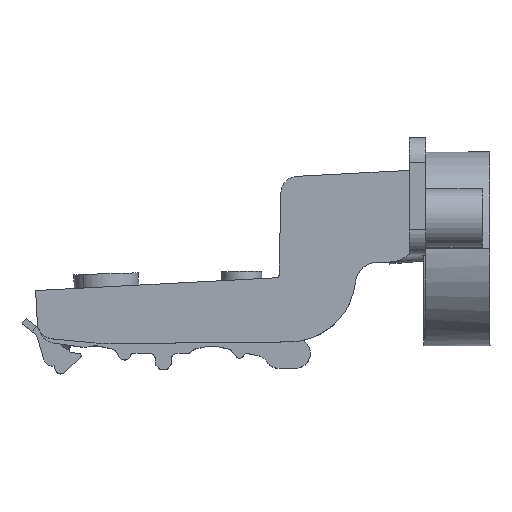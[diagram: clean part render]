
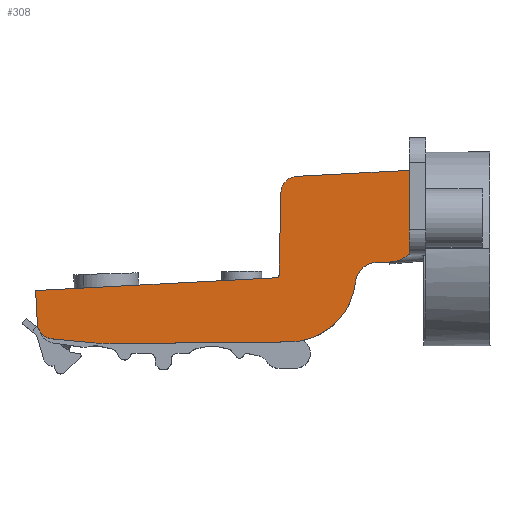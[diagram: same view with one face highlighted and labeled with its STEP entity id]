
A CAD part, top view. The second image highlights one B-rep face of the part: STEP entity #308.
In plain terms, the highlighted planar face has unit normal (0, 0, 1).
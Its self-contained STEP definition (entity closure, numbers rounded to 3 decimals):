
#33 = VERTEX_POINT ( 'NONE', #5550 ) ;
#138 = EDGE_LOOP ( 'NONE', ( #3999, #5428, #5588, #2591, #860, #1868, #2496, #207, #2877, #1821, #2102, #1815, #5817, #746, #674, #2652 ) ) ;
#175 = CARTESIAN_POINT ( 'NONE',  ( -18.123, 0.045, 8.5 ) ) ;
#207 = ORIENTED_EDGE ( 'NONE', *, *, #777, .F. ) ;
#216 = LINE ( 'NONE', #2930, #2545 ) ;
#233 = EDGE_CURVE ( 'NONE', #1184, #2069, #3265, .T. ) ;
#255 = CARTESIAN_POINT ( 'NONE',  ( -0.47, 2.366, 8.5 ) ) ;
#264 = VECTOR ( 'NONE', #3915, 1000. ) ;
#298 = EDGE_CURVE ( 'NONE', #33, #5667, #1113, .T. ) ;
#302 = DIRECTION ( 'NONE',  ( 1., 0.01, 0. ) ) ;
#308 = ADVANCED_FACE ( 'NONE', ( #1145 ), #3458, .T. ) ;
#345 = EDGE_CURVE ( 'NONE', #4266, #4323, #216, .T. ) ;
#380 = EDGE_CURVE ( 'NONE', #5667, #5527, #1592, .T. ) ;
#387 = DIRECTION ( 'NONE',  ( 0., 0., -1. ) ) ;
#427 = AXIS2_PLACEMENT_3D ( 'NONE', #3492, #3021, #3668 ) ;
#521 = EDGE_CURVE ( 'NONE', #5527, #1184, #2299, .T. ) ;
#522 = CARTESIAN_POINT ( 'NONE',  ( -51.365, -12.125, 8.5 ) ) ;
#674 = ORIENTED_EDGE ( 'NONE', *, *, #4054, .F. ) ;
#713 = DIRECTION ( 'NONE',  ( -0.053, 0.999, 0. ) ) ;
#746 = ORIENTED_EDGE ( 'NONE', *, *, #1694, .T. ) ;
#777 = EDGE_CURVE ( 'NONE', #2815, #1726, #5230, .T. ) ;
#845 = VECTOR ( 'NONE', #4090, 1000. ) ;
#860 = ORIENTED_EDGE ( 'NONE', *, *, #233, .T. ) ;
#862 = CARTESIAN_POINT ( 'NONE',  ( -16.343, 0.045, 8.5 ) ) ;
#938 = CARTESIAN_POINT ( 'NONE',  ( 5.231, 3.937, 8.5 ) ) ;
#947 = DIRECTION ( 'NONE',  ( 1., 0.01, 0. ) ) ;
#1055 = DIRECTION ( 'NONE',  ( 1., 0., 0. ) ) ;
#1096 = VERTEX_POINT ( 'NONE', #4233 ) ;
#1113 = LINE ( 'NONE', #4605, #4445 ) ;
#1145 = FACE_OUTER_BOUND ( 'NONE', #138, .T. ) ;
#1184 = VERTEX_POINT ( 'NONE', #175 ) ;
#1233 = CARTESIAN_POINT ( 'NONE',  ( -4.409, -1.214, 8.5 ) ) ;
#1286 = EDGE_CURVE ( 'NONE', #3599, #1726, #3985, .T. ) ;
#1288 = LINE ( 'NONE', #5332, #4659 ) ;
#1592 = CIRCLE ( 'NONE', #5889, 3. ) ;
#1618 = CARTESIAN_POINT ( 'NONE',  ( -58.515, -8.429, 8.5 ) ) ;
#1694 = EDGE_CURVE ( 'NONE', #5521, #4342, #5868, .T. ) ;
#1726 = VERTEX_POINT ( 'NONE', #2152 ) ;
#1815 = ORIENTED_EDGE ( 'NONE', *, *, #345, .F. ) ;
#1821 = ORIENTED_EDGE ( 'NONE', *, *, #4176, .F. ) ;
#1868 = ORIENTED_EDGE ( 'NONE', *, *, #4815, .T. ) ;
#1876 = EDGE_CURVE ( 'NONE', #4323, #2565, #2420, .T. ) ;
#1978 = EDGE_CURVE ( 'NONE', #5521, #4266, #3669, .T. ) ;
#2032 = DIRECTION ( 'NONE',  ( 0., 0., -1. ) ) ;
#2065 = VECTOR ( 'NONE', #2180, 1000. ) ;
#2069 = VERTEX_POINT ( 'NONE', #3571 ) ;
#2102 = ORIENTED_EDGE ( 'NONE', *, *, #1876, .F. ) ;
#2117 = LINE ( 'NONE', #2147, #264 ) ;
#2118 = DIRECTION ( 'NONE',  ( 0., 0., -1. ) ) ;
#2136 = CARTESIAN_POINT ( 'NONE',  ( -48.513, 17.739, 8.5 ) ) ;
#2147 = CARTESIAN_POINT ( 'NONE',  ( 12.935, 2.494, 8.5 ) ) ;
#2152 = CARTESIAN_POINT ( 'NONE',  ( -61.815, -2.742, 8.5 ) ) ;
#2153 = VECTOR ( 'NONE', #5148, 1000. ) ;
#2180 = DIRECTION ( 'NONE',  ( -0.023, -1., 0. ) ) ;
#2253 = AXIS2_PLACEMENT_3D ( 'NONE', #4308, #2508, #302 ) ;
#2299 = LINE ( 'NONE', #3105, #2065 ) ;
#2420 = CIRCLE ( 'NONE', #5779, 30. ) ;
#2480 = AXIS2_PLACEMENT_3D ( 'NONE', #5546, #5598, #4159 ) ;
#2496 = ORIENTED_EDGE ( 'NONE', *, *, #1286, .T. ) ;
#2508 = DIRECTION ( 'NONE',  ( 0., 0., 1. ) ) ;
#2545 = VECTOR ( 'NONE', #4333, 1000. ) ;
#2565 = VERTEX_POINT ( 'NONE', #522 ) ;
#2567 = CARTESIAN_POINT ( 'NONE',  ( -61.82, -2.663, 8.5 ) ) ;
#2569 = CIRCLE ( 'NONE', #3323, 0.5 ) ;
#2576 = DIRECTION ( 'NONE',  ( 0., 0., 1. ) ) ;
#2591 = ORIENTED_EDGE ( 'NONE', *, *, #521, .T. ) ;
#2652 = ORIENTED_EDGE ( 'NONE', *, *, #5414, .F. ) ;
#2715 = LINE ( 'NONE', #3726, #845 ) ;
#2815 = VERTEX_POINT ( 'NONE', #4512 ) ;
#2877 = ORIENTED_EDGE ( 'NONE', *, *, #5595, .F. ) ;
#2902 = AXIS2_PLACEMENT_3D ( 'NONE', #862, #387, #947 ) ;
#2930 = CARTESIAN_POINT ( 'NONE',  ( -16.229, -11.955, 8.5 ) ) ;
#2987 = CARTESIAN_POINT ( 'NONE',  ( -17.783, 14.833, 8.5 ) ) ;
#3021 = DIRECTION ( 'NONE',  ( 0., 0., -1. ) ) ;
#3075 = DIRECTION ( 'NONE',  ( 0.001, -1., 0. ) ) ;
#3105 = CARTESIAN_POINT ( 'NONE',  ( -17.783, 14.833, 8.5 ) ) ;
#3118 = CARTESIAN_POINT ( 'NONE',  ( -21.854, -0.616, 8.5 ) ) ;
#3227 = CARTESIAN_POINT ( 'NONE',  ( -16.229, -11.955, 8.5 ) ) ;
#3243 = AXIS2_PLACEMENT_3D ( 'NONE', #1618, #2118, #4365 ) ;
#3260 = CARTESIAN_POINT ( 'NONE',  ( 1.876, 2.388, 8.5 ) ) ;
#3265 = LINE ( 'NONE', #3316, #2153 ) ;
#3306 = CARTESIAN_POINT ( 'NONE',  ( -48.227, -12.26, 8.5 ) ) ;
#3316 = CARTESIAN_POINT ( 'NONE',  ( -18.123, 0.045, 8.5 ) ) ;
#3323 = AXIS2_PLACEMENT_3D ( 'NONE', #5632, #2032, #1055 ) ;
#3458 = PLANE ( 'NONE',  #2253 ) ;
#3489 = CARTESIAN_POINT ( 'NONE',  ( -14.783, 14.764, 8.5 ) ) ;
#3492 = CARTESIAN_POINT ( 'NONE',  ( -0.431, -1.634, 8.5 ) ) ;
#3571 = CARTESIAN_POINT ( 'NONE',  ( -18.123, 0.044, 8.5 ) ) ;
#3599 = VERTEX_POINT ( 'NONE', #4779 ) ;
#3668 = DIRECTION ( 'NONE',  ( -1., -0.01, 0. ) ) ;
#3669 = CIRCLE ( 'NONE', #2902, 12. ) ;
#3726 = CARTESIAN_POINT ( 'NONE',  ( -51.365, -12.125, 8.5 ) ) ;
#3915 = DIRECTION ( 'NONE',  ( -1., -0.01, 0. ) ) ;
#3965 = DIRECTION ( 'NONE',  ( 1., 0.01, 0. ) ) ;
#3985 = LINE ( 'NONE', #3118, #5768 ) ;
#3999 = ORIENTED_EDGE ( 'NONE', *, *, #4103, .F. ) ;
#4054 = EDGE_CURVE ( 'NONE', #5203, #4342, #2117, .T. ) ;
#4073 = DIRECTION ( 'NONE',  ( -0.999, -0.053, 0. ) ) ;
#4090 = DIRECTION ( 'NONE',  ( -0.995, 0.095, 0. ) ) ;
#4103 = EDGE_CURVE ( 'NONE', #33, #4734, #1288, .T. ) ;
#4159 = DIRECTION ( 'NONE',  ( 1., 0.01, 0. ) ) ;
#4176 = EDGE_CURVE ( 'NONE', #2565, #1096, #2715, .T. ) ;
#4233 = CARTESIAN_POINT ( 'NONE',  ( -58.8, -11.415, 8.5 ) ) ;
#4266 = VERTEX_POINT ( 'NONE', #3227 ) ;
#4308 = CARTESIAN_POINT ( 'NONE',  ( 13.877, -2.021, 8.5 ) ) ;
#4323 = VERTEX_POINT ( 'NONE', #3306 ) ;
#4333 = DIRECTION ( 'NONE',  ( -1., -0.01, 0. ) ) ;
#4342 = VERTEX_POINT ( 'NONE', #255 ) ;
#4365 = DIRECTION ( 'NONE',  ( 1., 0.01, 0. ) ) ;
#4445 = VECTOR ( 'NONE', #4664, 1000. ) ;
#4512 = CARTESIAN_POINT ( 'NONE',  ( -61.494, -8.784, 8.5 ) ) ;
#4605 = CARTESIAN_POINT ( 'NONE',  ( -0.462, 18.53, 8.5 ) ) ;
#4659 = VECTOR ( 'NONE', #3075, 1000. ) ;
#4664 = DIRECTION ( 'NONE',  ( -0.999, -0.053, 0. ) ) ;
#4734 = VERTEX_POINT ( 'NONE', #938 ) ;
#4779 = CARTESIAN_POINT ( 'NONE',  ( -18.596, -0.443, 8.5 ) ) ;
#4815 = EDGE_CURVE ( 'NONE', #2069, #3599, #2569, .T. ) ;
#4952 = CIRCLE ( 'NONE', #3243, 3. ) ;
#5148 = DIRECTION ( 'NONE',  ( -0.024, -1., 0. ) ) ;
#5203 = VERTEX_POINT ( 'NONE', #3260 ) ;
#5225 = DIRECTION ( 'NONE',  ( 0., 0., -1. ) ) ;
#5230 = LINE ( 'NONE', #2567, #5515 ) ;
#5332 = CARTESIAN_POINT ( 'NONE',  ( 5.234, -2.026, 8.5 ) ) ;
#5361 = CIRCLE ( 'NONE', #2480, 4.5 ) ;
#5414 = EDGE_CURVE ( 'NONE', #4734, #5203, #5361, .T. ) ;
#5428 = ORIENTED_EDGE ( 'NONE', *, *, #298, .T. ) ;
#5478 = CARTESIAN_POINT ( 'NONE',  ( -14.943, 17.76, 8.5 ) ) ;
#5515 = VECTOR ( 'NONE', #713, 1000. ) ;
#5521 = VERTEX_POINT ( 'NONE', #1233 ) ;
#5527 = VERTEX_POINT ( 'NONE', #2987 ) ;
#5546 = CARTESIAN_POINT ( 'NONE',  ( 1.833, 6.888, 8.5 ) ) ;
#5550 = CARTESIAN_POINT ( 'NONE',  ( 5.223, 18.833, 8.5 ) ) ;
#5588 = ORIENTED_EDGE ( 'NONE', *, *, #380, .T. ) ;
#5595 = EDGE_CURVE ( 'NONE', #1096, #2815, #4952, .T. ) ;
#5598 = DIRECTION ( 'NONE',  ( 0., 0., -1. ) ) ;
#5632 = CARTESIAN_POINT ( 'NONE',  ( -18.623, 0.056, 8.5 ) ) ;
#5667 = VERTEX_POINT ( 'NONE', #5478 ) ;
#5725 = DIRECTION ( 'NONE',  ( 1., 0., 0. ) ) ;
#5768 = VECTOR ( 'NONE', #4073, 1000. ) ;
#5779 = AXIS2_PLACEMENT_3D ( 'NONE', #2136, #5225, #3965 ) ;
#5817 = ORIENTED_EDGE ( 'NONE', *, *, #1978, .F. ) ;
#5868 = CIRCLE ( 'NONE', #427, 4. ) ;
#5889 = AXIS2_PLACEMENT_3D ( 'NONE', #3489, #2576, #5725 ) ;
